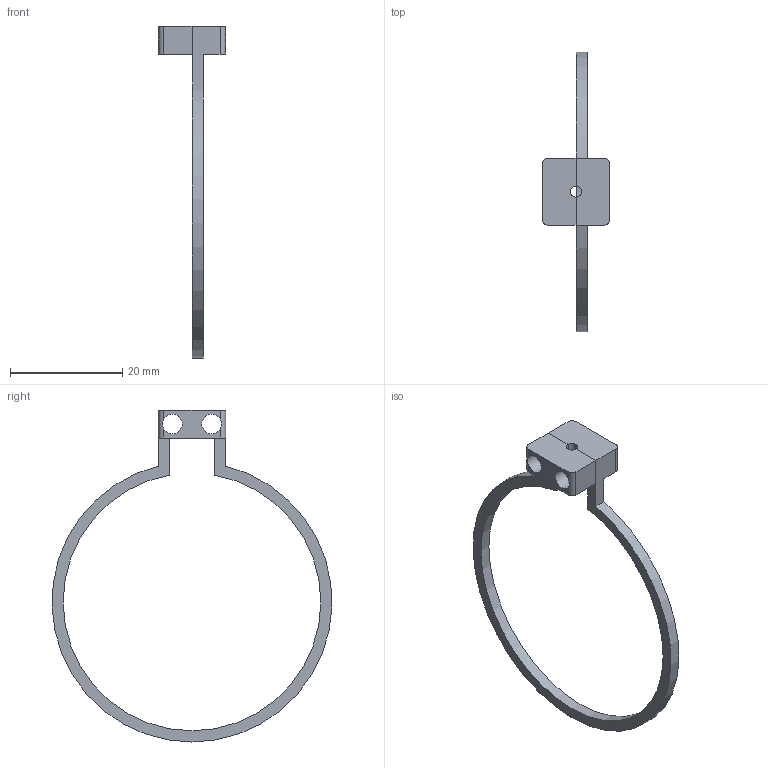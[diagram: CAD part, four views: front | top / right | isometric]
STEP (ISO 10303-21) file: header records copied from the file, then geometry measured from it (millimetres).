
FILE_DESCRIPTION(/* description */ (''),/* implementation_level */ '2;1');
FILE_NAME(/* name */ 'hanging_switch v4.step',/* time_stamp */ '2026-04-10T14:21:25+02:00',/* author */ (''),/* organization */ (''),/* preprocessor_version */ 'ST-DEVELOPER v20.1',/* originating_system */ 'Autodesk Translation Framework v14.24.0.0',/* authorisation */ '');
FILE_SCHEMA (('AUTOMOTIVE_DESIGN { 1 0 10303 214 3 1 1 }'));
Length unit declared in the file: millimetre
Products named in the file (1): (Niezapisany)
Bounding box: 12 x 49.97 x 59.27 mm (x, y, z)
Volume: 1078.4 mm3; surface area: 2040.3 mm2
Topology: 2 solids, 2 shells, 28 faces, 90 edges, 60 vertices
Faces by surface type: plane 16, cylinder 12
Full cylindrical faces by diameter (mm): 3.5 x4
Entity records: 1078 total; most frequent: CARTESIAN_POINT 217, ORIENTED_EDGE 180, DIRECTION 168, EDGE_CURVE 90, VERTEX_POINT 60, LINE 58, VECTOR 58, AXIS2_PLACEMENT_3D 55
